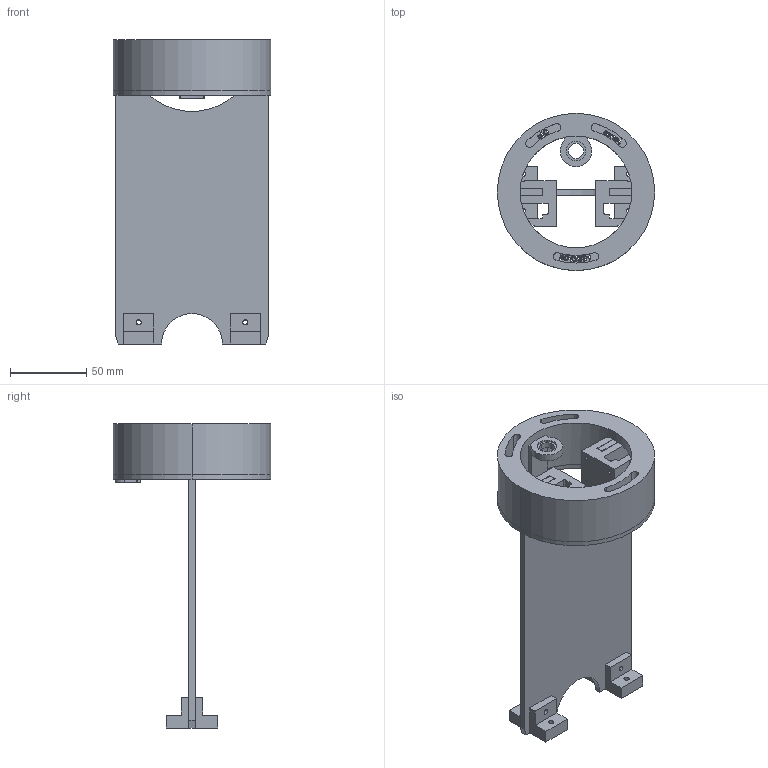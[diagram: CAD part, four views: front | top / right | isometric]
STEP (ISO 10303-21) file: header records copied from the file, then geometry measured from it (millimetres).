
FILE_DESCRIPTION (( 'STEP AP214' ), '1' );
FILE_NAME ('Electronic tray for inspection camera.STEP', '2024-05-23T14:01:01', ( '' ), ( '' ), 'SwSTEP 2.0', 'SolidWorks 2023', '' );
FILE_SCHEMA (( 'AUTOMOTIVE_DESIGN' ));
Length unit declared in the file: millimetre
Products named in the file (9): inmat ring festering; housing plate; bearing holder; inmat ring servo; festevinkel housing; inmat servo holder; inmat servo holder mir; bearing; Electronic tray for inspection camera
Assembly tree (11 placements, depth 2):
  Electronic tray for inspection camera
    inmat servo holder
    inmat ring servo
    inmat ring festering
    inmat servo holder mir
    festevinkel housing  x4
    housing plate
    bearing holder
    bearing
Bounding box: 103.5 x 103.5 x 200 mm (x, y, z)
Volume: 232178 mm3; surface area: 108718.2 mm2
Topology: 25 solids, 25 shells, 692 faces, 1882 edges, 1254 vertices
Faces by surface type: plane 376, bspline 178, cylinder 138
Entity records: 30206 total; most frequent: CARTESIAN_POINT 13922, ORIENTED_EDGE 3584, DIRECTION 2678, EDGE_CURVE 1792, VERTEX_POINT 1194, VECTOR 1178, LINE 1178, EDGE_LOOP 766
